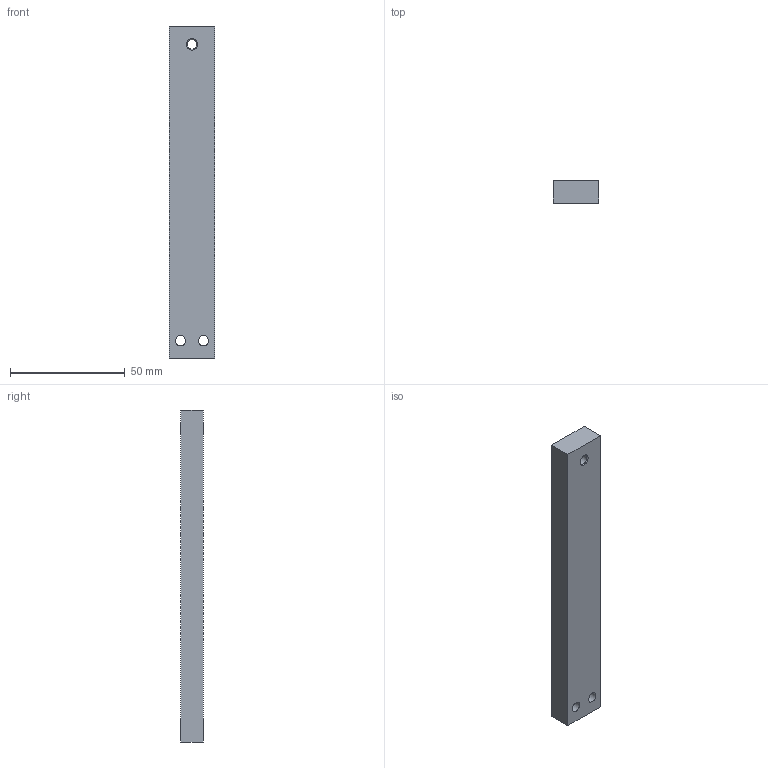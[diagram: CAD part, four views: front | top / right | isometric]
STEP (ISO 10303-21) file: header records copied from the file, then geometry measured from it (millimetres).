
FILE_DESCRIPTION(/* description */ (''),/* implementation_level */ '2;1');
FILE_NAME(/* name */ '砂轮阴极连接架.stp',/* time_stamp */ '2026-09-19T17:31:12+08:00',/* author */ (''),/* organization */ (''),/* preprocessor_version */ 'ST-DEVELOPER v20',/* originating_system */ 'SIEMENS PLM Software NX2312.1700',/* authorisation */ '');
FILE_SCHEMA (('AUTOMOTIVE_DESIGN { 1 0 10303 214 3 1 1 1 }'));
Length unit declared in the file: millimetre
Products named in the file (1): 阴极支撑架二
Bounding box: 20 x 10 x 144.5 mm (x, y, z)
Volume: 28441.1 mm3; surface area: 9387.6 mm2
Topology: 1 solids, 1 shells, 11 faces, 27 edges, 18 vertices
Faces by surface type: plane 6, cylinder 3, cone 2
Full cylindrical faces by diameter (mm): 4.2 x1, 4.5 x2
Entity records: 322 total; most frequent: DIRECTION 52, CARTESIAN_POINT 48, ORIENTED_EDGE 40, EDGE_LOOP 22, EDGE_CURVE 20, AXIS2_PLACEMENT_3D 20, FACE_BOUND 18, VERTEX_POINT 16
